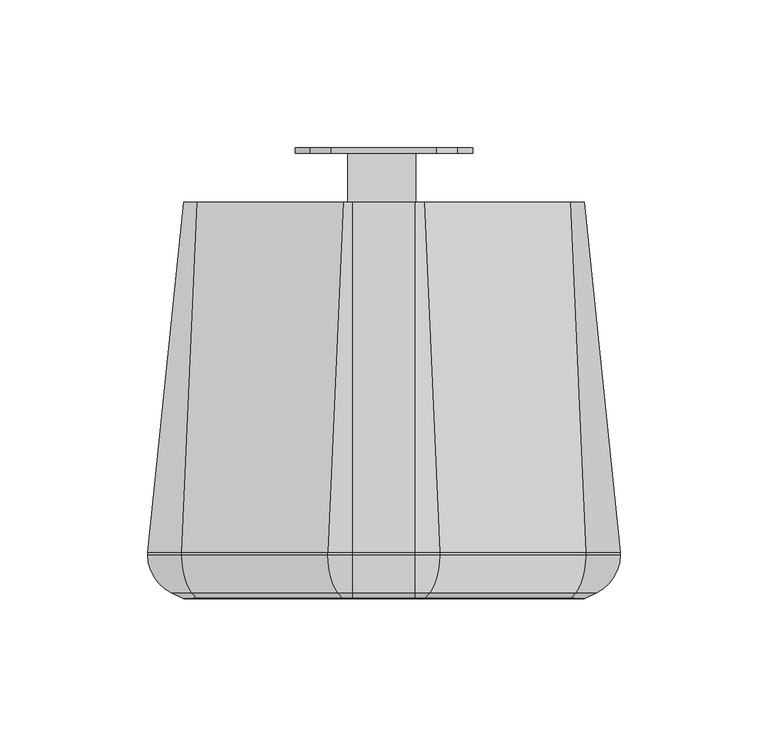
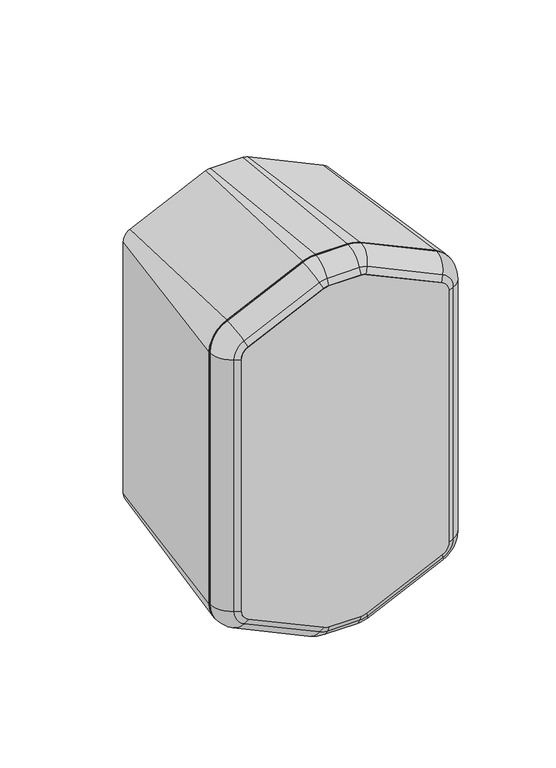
"""IFC4 building model written with IfcOpenShell, lengths in millimetres: proxy geometry, 230208 BIM Data_MS 530T VA-FR : MS 530T VA."""

from ifc_helpers import new_model, si_unit, point, frame, frame_2d, origin, place, context, project, spatial, polyline, circle_curve, ellipse_curve, trimmed, segment, composite_curve, outline, extrude, source, transform, mapped, element, save
from ifc_brep_helpers import plane_surface, cylinder_surface, revolved_surface, advanced_brep


def communication_devices_19396da9(model_context):
    return source(origin(), model_context, "Body", "SolidModel", [
        extrude(outline(polyline([(10.7406672, 75.3814534), (10.7406672, 58.8099409), (-12.2444111, 58.8099409), (-12.2444111, 75.3814534), (10.7406672, 75.3814534)])), frame((0.0, 0.0, 107.8898426), z_axis=(0.0, 0.0, 1.0), x_axis=(1.0, 0.0, 0.0)), (0.0, 0.0, 1.0), 29.9977826),
        extrude(outline(composite_curve([segment(polyline([(83.8316642, -24.945488), (76.7605964, -17.8744202)]), True, "CONTINUOUS"), segment(trimmed(circle_curve(frame_2d((41.2463729, 0.0)), 39.7587094), [point((76.7605964, -17.8744202))], [point((76.7605964, 17.8744202))], True, "CARTESIAN"), True, "CONTINUOUS"), segment(polyline([(76.7605964, 17.8744202), (83.8316642, 24.945488)]), True, "CONTINUOUS"), segment(trimmed(circle_curve(frame_2d((123.8316642, -111.9962019)), 142.6640335), [point((83.8316642, 24.945488))], [point((163.8316642, 24.945488))], False, "CARTESIAN"), True, "CONTINUOUS"), segment(polyline([(163.8316642, 24.945488), (170.902732, 17.8744202)]), True, "CONTINUOUS"), segment(trimmed(circle_curve(frame_2d((206.4169555, 0.0)), 39.7587094), [point((170.902732, 17.8744202))], [point((170.902732, -17.8744202))], True, "CARTESIAN"), True, "CONTINUOUS"), segment(polyline([(170.902732, -17.8744202), (163.8316642, -24.945488)]), True, "CONTINUOUS"), segment(trimmed(circle_curve(frame_2d((123.8316642, 111.9962019)), 142.6640335), [point((163.8316642, -24.945488))], [point((83.8316642, -24.945488))], False, "CARTESIAN"), True, "CONTINUOUS")], self_intersect=False), holes=[composite_curve([segment(trimmed(circle_curve(frame_2d((156.5947389, -14.9587348)), 2.6790866), [point((156.5947389, -17.6378214))], [point((156.5947389, -12.2796483))], True, "CARTESIAN"), True, "CONTINUOUS"), segment(trimmed(circle_curve(frame_2d((156.5947389, -14.9587348)), 2.6790866), [point((156.5947389, -12.2796483))], [point((156.5947389, -17.6378214))], True, "CARTESIAN"), True, "CONTINUOUS")], self_intersect=False), composite_curve([segment(trimmed(circle_curve(frame_2d((156.5947389, 14.9587348)), 2.6790866), [point((156.5947389, 12.2796483))], [point((156.5947389, 17.6378214))], True, "CARTESIAN"), True, "CONTINUOUS"), segment(trimmed(circle_curve(frame_2d((156.5947389, 14.9587348)), 2.6790866), [point((156.5947389, 17.6378214))], [point((156.5947389, 12.2796483))], True, "CARTESIAN"), True, "CONTINUOUS")], self_intersect=False), composite_curve([segment(trimmed(circle_curve(frame_2d((91.0685895, -14.9587348)), 2.6790866), [point((91.0685895, -17.6378214))], [point((91.0685895, -12.2796483))], True, "CARTESIAN"), True, "CONTINUOUS"), segment(trimmed(circle_curve(frame_2d((91.0685895, -14.9587348)), 2.6790866), [point((91.0685895, -12.2796483))], [point((91.0685895, -17.6378214))], True, "CARTESIAN"), True, "CONTINUOUS")], self_intersect=False), composite_curve([segment(trimmed(circle_curve(frame_2d((91.0685895, 14.9587348)), 2.6790866), [point((91.0685895, 12.2796483))], [point((91.0685895, 17.6378214))], True, "CARTESIAN"), True, "CONTINUOUS"), segment(trimmed(circle_curve(frame_2d((91.0685895, 14.9587348)), 2.6790866), [point((91.0685895, 17.6378214))], [point((91.0685895, 12.2796483))], True, "CARTESIAN"), True, "CONTINUOUS")], self_intersect=False)]), frame((0.0, 75.3814534, 0.0), z_axis=(0.0, 1.0, 0.0), x_axis=(0.0, 0.0, 1.0)), (0.0, 0.0, 1.0), 1.9185466),
        advanced_brep(
        [(-13.8437602, 58.8099409, 247.0289506), (-10.5661067, 58.8099409, 247.7555889), (10.5661067, 58.8099409, 247.7555889), (13.8437602, 58.8099409, 247.0289506), (63.2776535, 58.8099409, 223.9775476), (67.7555889, 58.8099409, 216.948597), (67.7555889, 58.8099409, 43.051403), (63.2776535, 58.8099409, 36.0224524), (13.8437602, 58.8099409, 12.9710494), (10.5661067, 58.8099409, 12.2444111), (-10.5661067, 58.8099409, 12.2444111), (-13.8437602, 58.8099409, 12.9710494), (-63.2776535, 58.8099409, 36.0224524), (-67.7555889, 58.8099409, 43.051403), (-67.7555889, 58.8099409, 216.948597), (-63.2776535, 58.8099409, 223.9775476), (-19.018472, -59.7, 258.1261557), (-68.4523652, -59.7, 235.0747527), (-80.0, -59.7, 216.948597), (-80.0, -59.7, 43.051403), (-68.4523652, -59.7, 24.9252473), (-19.018472, -59.7, 1.8738443), (-10.5661067, -59.7, 0.0), (10.5661067, -59.7, 0.0), (19.018472, -59.7, 1.8738443), (68.4523652, -59.7, 24.9252473), (80.0, -59.7, 43.051403), (80.0, -59.7, 216.948597), (68.4523652, -59.7, 235.0747527), (19.018472, -59.7, 258.1261557), (10.5661067, -59.7, 260.0), (-10.5661067, -59.7, 260.0)],
        [
            (0, 1, circle_curve(frame((-10.5661067, 58.8099409, 240.0), z_axis=(0.0, 1.0, 0.0), x_axis=(-0.4226182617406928, 0.0, 0.906307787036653)), 7.7555889)),
            (1, 2),
            (2, 3, circle_curve(frame((10.5661067, 58.8099409, 240.0), z_axis=(0.0, 1.0, 0.0), x_axis=(0.0, 0.0, 1.0)), 7.7555889)),
            (3, 4),
            (4, 5, circle_curve(frame((60.0, 58.8099409, 216.948597), z_axis=(0.0, 1.0, 0.0), x_axis=(0.42261826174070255, 0.0, 0.9063077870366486)), 7.7555889)),
            (5, 6),
            (6, 7, circle_curve(frame((60.0, 58.8099409, 43.051403), z_axis=(0.0, 1.0, 0.0), x_axis=(1.0, 0.0, 0.0)), 7.7555889)),
            (7, 8),
            (8, 9, circle_curve(frame((10.5661067, 58.8099409, 20.0), z_axis=(0.0, 1.0, 0.0), x_axis=(0.42261826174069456, 0.0, -0.9063077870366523)), 7.7555889)),
            (9, 10),
            (10, 11, circle_curve(frame((-10.5661067, 58.8099409, 20.0), z_axis=(0.0, 1.0, 0.0), x_axis=(0.0, 0.0, -1.0)), 7.7555889)),
            (11, 12),
            (12, 13, circle_curve(frame((-60.0, 58.8099409, 43.051403), z_axis=(0.0, 1.0, 0.0), x_axis=(-0.4226182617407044, 0.0, -0.9063077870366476)), 7.7555889)),
            (13, 14),
            (14, 15, circle_curve(frame((-60.0, 58.8099409, 216.948597), z_axis=(0.0, 1.0, 0.0), x_axis=(-1.0, 0.0, 0.0)), 7.7555889)),
            (15, 0),
            (16, 17),
            (17, 18, circle_curve(frame((-60.0, -59.7, 216.948597), z_axis=(0.0, -1.0, 0.0), x_axis=(-1.0, 0.0, 0.0)), 20.0)),
            (18, 19),
            (19, 20, circle_curve(frame((-60.0, -59.7, 43.051403), z_axis=(0.0, -1.0, 0.0), x_axis=(-0.4226182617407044, 0.0, -0.9063077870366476)), 20.0)),
            (20, 21),
            (21, 22, circle_curve(frame((-10.5661067, -59.7, 20.0), z_axis=(0.0, -1.0, 0.0), x_axis=(0.0, 0.0, -1.0)), 20.0)),
            (22, 23),
            (23, 24, circle_curve(frame((10.5661067, -59.7, 20.0), z_axis=(0.0, -1.0, 0.0), x_axis=(0.42261826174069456, 0.0, -0.9063077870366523)), 20.0)),
            (24, 25),
            (25, 26, circle_curve(frame((60.0, -59.7, 43.051403), z_axis=(0.0, -1.0, 0.0), x_axis=(1.0, 0.0, 0.0)), 20.0)),
            (26, 27),
            (27, 28, circle_curve(frame((60.0, -59.7, 216.948597), z_axis=(0.0, -1.0, 0.0), x_axis=(0.42261826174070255, 0.0, 0.9063077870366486)), 20.0)),
            (28, 29),
            (29, 30, circle_curve(frame((10.5661067, -59.7, 240.0), z_axis=(0.0, -1.0, 0.0), x_axis=(0.0, 0.0, 1.0)), 20.0)),
            (30, 31),
            (31, 16, circle_curve(frame((-10.5661067, -59.7, 240.0), z_axis=(0.0, -1.0, 0.0), x_axis=(-0.4226182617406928, 0.0, 0.906307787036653)), 20.0)),
            (16, 0),
            (15, 17),
            (14, 18),
            (13, 19),
            (12, 20),
            (11, 21),
            (10, 22),
            (9, 23),
            (8, 24),
            (7, 25),
            (6, 26),
            (5, 27),
            (4, 28),
            (3, 29),
            (2, 30),
            (1, 31),
        ],
        [
            plane_surface(frame((0.0, 58.8099409, 130.0), z_axis=(0.0, 1.0, 0.0), x_axis=(-0.9063077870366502, 0.0, -0.42261826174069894))),
            plane_surface(frame((0.0, -59.7, 130.0), z_axis=(0.0, -1.0, 0.0), x_axis=(-0.9063077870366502, 0.0, -0.42261826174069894))),
            plane_surface(frame((-43.7354186, -59.7, 246.6004542), z_axis=(-0.42038044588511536, 0.10277260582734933, 0.9015087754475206), x_axis=(0.9063077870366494, 0.0, 0.4226182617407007))),
            revolved_surface(polyline([(-67.75558889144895, 58.8099409, 216.948597), (-80.0, -59.69999999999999, 216.948597)]), (-60.0, 133.8739332, 216.948597), (0.0, -1.0, 0.0)),
            plane_surface(frame((-80.0, -59.7, 130.0), z_axis=(-0.9947048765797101, 0.10277260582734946, 0.0), x_axis=(0.0, 0.0, 1.0))),
            revolved_surface(polyline([(-63.27765348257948, 58.8099409, 36.0224524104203), (-68.4523652, -59.69999999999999, 24.9252473)]), (-60.0, 133.8739332, 43.051403), (0.0, -1.0, 0.0)),
            plane_surface(frame((-43.7354186, -59.7, 13.3995458), z_axis=(-0.4203804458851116, 0.10277260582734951, -0.9015087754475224), x_axis=(-0.9063077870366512, 0.0, 0.42261826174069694))),
            revolved_surface(polyline([(-10.5661067, 58.8099409, 12.244411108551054), (-10.5661067, -59.69999999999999, 0.0)]), (-10.5661067, 133.8739332, 20.0), (0.0, -1.0, 0.0)),
            plane_surface(frame((0.0, -59.7, 0.0), z_axis=(0.0, 0.10277260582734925, -0.9947048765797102), x_axis=(-1.0, 0.0, 0.0))),
            revolved_surface(polyline([(13.843760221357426, 58.8099409, 12.971049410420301), (19.018472, -59.69999999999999, 1.8738443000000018)]), (10.5661067, 133.8739332, 20.0), (0.0, -1.0, 0.0)),
            plane_surface(frame((43.7354186, -59.7, 13.3995458), z_axis=(0.420380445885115, 0.10277260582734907, -0.9015087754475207), x_axis=(-0.9063077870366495, 0.0, -0.42261826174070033))),
            revolved_surface(polyline([(67.75558889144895, 58.8099409, 43.051403), (80.0, -59.69999999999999, 43.051403)]), (60.0, 133.8739332, 43.051403), (0.0, -1.0, 0.0)),
            plane_surface(frame((80.0, -59.7, 130.0), z_axis=(0.9947048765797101, 0.10277260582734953, 0.0), x_axis=(0.0, 0.0, -1.0))),
            revolved_surface(polyline([(63.27765348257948, 58.8099409, 223.9775475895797), (68.4523652, -59.69999999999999, 235.0747527)]), (60.0, 133.8739332, 216.948597), (0.0, -1.0, 0.0)),
            plane_surface(frame((43.7354186, -59.7, 246.6004542), z_axis=(0.4203804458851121, 0.10277260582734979, 0.9015087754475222), x_axis=(0.9063077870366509, 0.0, -0.42261826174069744))),
            revolved_surface(polyline([(10.5661067, 58.8099409, 247.75558889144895), (10.5661067, -59.69999999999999, 260.0)]), (10.5661067, 133.8739332, 240.0), (0.0, -1.0, 0.0)),
            plane_surface(frame((0.0, -59.7, 260.0), z_axis=(0.0, 0.1027726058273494, 0.9947048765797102), x_axis=(1.0, 0.0, 0.0))),
            revolved_surface(polyline([(-13.843760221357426, 58.8099409, 247.02895058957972), (-19.018472, -59.69999999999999, 258.1261557)]), (-10.5661067, 133.8739332, 240.0), (0.0, -1.0, 0.0)),
        ],
        [
            (0, [[1, 2, 3, 4, 5, 6, 7, 8, 9, 10, 11, 12, 13, 14, 15, 16]]),
            (1, [[17, 18, 19, 20, 21, 22, 23, 24, 25, 26, 27, 28, 29, 30, 31, 32]]),
            (2, [[-17, 33, -16, 34]]),
            (3, [[-18, -34, -15, 35]]),
            (4, [[-19, -35, -14, 36]]),
            (5, [[-20, -36, -13, 37]]),
            (6, [[-21, -37, -12, 38]]),
            (7, [[-22, -38, -11, 39]]),
            (8, [[-23, -39, -10, 40]]),
            (9, [[-24, -40, -9, 41]]),
            (10, [[-25, -41, -8, 42]]),
            (11, [[-26, -42, -7, 43]]),
            (12, [[-27, -43, -6, 44]]),
            (13, [[-28, -44, -5, 45]]),
            (14, [[-29, -45, -4, 46]]),
            (15, [[-30, -46, -3, 47]]),
            (16, [[-31, -47, -2, 48]]),
            (17, [[-32, -48, -1, -33]]),
        ],
    ),
        extrude(outline(composite_curve([segment(polyline([(216.948597, -67.7555889), (43.051403, -67.7555889)]), True, "CONTINUOUS"), segment(trimmed(circle_curve(frame_2d((43.051403, -60.0)), 7.7555889), [point((43.051403, -67.7555889))], [point((36.0224524, -63.2776535))], False, "CARTESIAN"), True, "CONTINUOUS"), segment(polyline([(36.0224524, -63.2776535), (12.9710494, -13.8437602)]), True, "CONTINUOUS"), segment(trimmed(circle_curve(frame_2d((20.0, -10.5661067)), 7.7555889), [point((12.9710494, -13.8437602))], [point((12.2444111, -10.5661067))], False, "CARTESIAN"), True, "CONTINUOUS"), segment(polyline([(12.2444111, -10.5661067), (12.2444111, 10.5661067)]), True, "CONTINUOUS"), segment(trimmed(circle_curve(frame_2d((20.0, 10.5661067)), 7.7555889), [point((12.2444111, 10.5661067))], [point((12.9710494, 13.8437602))], False, "CARTESIAN"), True, "CONTINUOUS"), segment(polyline([(12.9710494, 13.8437602), (36.0224524, 63.2776535)]), True, "CONTINUOUS"), segment(trimmed(circle_curve(frame_2d((43.051403, 60.0)), 7.7555889), [point((36.0224524, 63.2776535))], [point((43.051403, 67.7555889))], False, "CARTESIAN"), True, "CONTINUOUS"), segment(polyline([(43.051403, 67.7555889), (216.948597, 67.7555889)]), True, "CONTINUOUS"), segment(trimmed(circle_curve(frame_2d((216.948597, 60.0)), 7.7555889), [point((216.948597, 67.7555889))], [point((223.9775476, 63.2776535))], False, "CARTESIAN"), True, "CONTINUOUS"), segment(polyline([(223.9775476, 63.2776535), (247.0289506, 13.8437602)]), True, "CONTINUOUS"), segment(trimmed(circle_curve(frame_2d((240.0, 10.5661067)), 7.7555889), [point((247.0289506, 13.8437602))], [point((247.7555889, 10.5661067))], False, "CARTESIAN"), True, "CONTINUOUS"), segment(polyline([(247.7555889, 10.5661067), (247.7555889, -10.5661067)]), True, "CONTINUOUS"), segment(trimmed(circle_curve(frame_2d((240.0, -10.5661067)), 7.7555889), [point((247.7555889, -10.5661067))], [point((247.0289506, -13.8437602))], False, "CARTESIAN"), True, "CONTINUOUS"), segment(polyline([(247.0289506, -13.8437602), (223.9775476, -63.2776535)]), True, "CONTINUOUS"), segment(trimmed(circle_curve(frame_2d((216.948597, -60.0)), 7.7555889), [point((223.9775476, -63.2776535))], [point((216.948597, -67.7555889))], False, "CARTESIAN"), True, "CONTINUOUS")], self_intersect=False)), frame((0.0, -75.4174067, 0.0), z_axis=(0.0, 1.0, 0.0), x_axis=(0.0, 0.0, 1.0)), (0.0, 0.0, 1.0), 16.1659905),
        advanced_brep(
        [(68.4523652, -60.4918521, 235.0747527), (80.0, -60.4918521, 216.948597), (80.0, -59.7, 216.948597), (68.4523652, -59.7, 235.0747527), (65.0513857, -73.3703892, 227.7813287), (71.9525969, -73.3703892, 216.948597), (63.2776535, -75.4174067, 223.9775476), (67.7555889, -75.4174067, 216.948597), (63.2776535, -59.7, 223.9775476), (67.7555889, -59.7, 216.948597), (19.018472, -59.7, 258.1261557), (19.018472, -60.4918521, 258.1261557), (15.6174925, -73.3703892, 250.8327316), (13.8437602, -75.4174067, 247.0289506), (13.8437602, -59.7, 247.0289506), (10.5661067, -60.4918521, 260.0), (10.5661067, -59.7, 260.0), (10.5661067, -73.3703892, 251.9525969), (10.5661067, -75.4174067, 247.7555889), (10.5661067, -59.7, 247.7555889), (-10.5661067, -59.7, 260.0), (-10.5661067, -60.4918521, 260.0), (-10.5661067, -73.3703892, 251.9525969), (-10.5661067, -75.4174067, 247.7555889), (-10.5661067, -59.7, 247.7555889), (-19.018472, -60.4918521, 258.1261557), (-19.018472, -59.7, 258.1261557), (-15.6174925, -73.3703892, 250.8327316), (-13.8437602, -75.4174067, 247.0289506), (-13.8437602, -59.7, 247.0289506), (-68.4523652, -59.7, 235.0747527), (-68.4523652, -60.4918521, 235.0747527), (-65.0513857, -73.3703892, 227.7813287), (-63.2776535, -75.4174067, 223.9775476), (-63.2776535, -59.7, 223.9775476), (-80.0, -60.4918521, 216.948597), (-80.0, -59.7, 216.948597), (-71.9525969, -73.3703892, 216.948597), (-67.7555889, -75.4174067, 216.948597), (-67.7555889, -59.7, 216.948597), (-80.0, -59.7, 43.051403), (-80.0, -60.4918521, 43.051403), (-71.9525969, -73.3703892, 43.051403), (-67.7555889, -75.4174067, 43.051403), (-67.7555889, -59.7, 43.051403), (-68.4523652, -60.4918521, 24.9252473), (-68.4523652, -59.7, 24.9252473), (-65.0513857, -73.3703892, 32.2186713), (-63.2776535, -75.4174067, 36.0224524), (-63.2776535, -59.7, 36.0224524), (-19.018472, -59.7, 1.8738443), (-19.018472, -60.4918521, 1.8738443), (-15.6174925, -73.3703892, 9.1672684), (-13.8437602, -75.4174067, 12.9710494), (-13.8437602, -59.7, 12.9710494), (-10.5661067, -60.4918521, 0.0), (-10.5661067, -59.7, 0.0), (-10.5661067, -73.3703892, 8.0474031), (-10.5661067, -75.4174067, 12.2444111), (-10.5661067, -59.7, 12.2444111), (10.5661067, -59.7, 0.0), (10.5661067, -60.4918521, 0.0), (10.5661067, -73.3703892, 8.0474031), (10.5661067, -75.4174067, 12.2444111), (10.5661067, -59.7, 12.2444111), (19.018472, -60.4918521, 1.8738443), (19.018472, -59.7, 1.8738443), (15.6174925, -73.3703892, 9.1672684), (13.8437602, -75.4174067, 12.9710494), (13.8437602, -59.7, 12.9710494), (68.4523652, -59.7, 24.9252473), (68.4523652, -60.4918521, 24.9252473), (65.0513857, -73.3703892, 32.2186713), (63.2776535, -75.4174067, 36.0224524), (63.2776535, -59.7, 36.0224524), (80.0, -60.4918521, 43.051403), (80.0, -59.7, 43.051403), (71.9525969, -73.3703892, 43.051403), (67.7555889, -75.4174067, 43.051403), (67.7555889, -59.7, 43.051403)],
        [
            (0, 1, circle_curve(frame((60.0, -60.4918521, 216.948597), z_axis=(0.0, 1.0, 0.0), x_axis=(1.0, 0.0, 0.0)), 20.0)),
            (1, 2),
            (2, 3, circle_curve(frame((60.0, -59.7, 216.948597), z_axis=(0.0, -1.0, 0.0), x_axis=(1.0, 0.0, 0.0)), 20.0)),
            (3, 0),
            (4, 5, circle_curve(frame((60.0, -73.3703892, 216.948597), z_axis=(0.0, 1.0, 0.0), x_axis=(1.0, 0.0, 0.0)), 11.9525969)),
            (5, 1, circle_curve(frame((65.6713147, -60.4918521, 216.948597), z_axis=(0.0, 0.0, 1.0), x_axis=(-1.0, 0.0, 0.0)), 14.3286853)),
            (0, 4, circle_curve(frame((62.3968012, -60.4918521, 222.0885537), z_axis=(0.90630778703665, 0.0, -0.42261826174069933), x_axis=(-0.42261826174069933, 0.0, -0.90630778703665)), 14.3286853)),
            (6, 7, circle_curve(frame((60.0, -75.4174067, 216.948597), z_axis=(0.0, 1.0, 0.0), x_axis=(1.0, 0.0, 0.0)), 7.7555889)),
            (7, 5),
            (4, 6),
            (8, 9, circle_curve(frame((60.0, -59.7, 216.948597), z_axis=(0.0, 1.0, 0.0), x_axis=(1.0, 0.0, 0.0)), 7.7555889)),
            (9, 7),
            (6, 8),
            (3, 10),
            (10, 11),
            (11, 0),
            (11, 12, circle_curve(frame((12.9629079, -60.4918521, 245.1399567), z_axis=(0.9063077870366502, 0.0, -0.42261826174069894), x_axis=(-0.42261826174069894, 0.0, -0.9063077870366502)), 14.3286853)),
            (12, 4),
            (12, 13),
            (13, 6),
            (13, 14),
            (14, 8),
            (15, 11, circle_curve(frame((10.5661067, -60.4918521, 240.0), z_axis=(0.0, 1.0, 0.0), x_axis=(0.42261826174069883, 0.0, 0.9063077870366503)), 20.0)),
            (10, 16, circle_curve(frame((10.5661067, -59.7, 240.0), z_axis=(0.0, -1.0, 0.0), x_axis=(0.42261826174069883, 0.0, 0.9063077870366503)), 20.0)),
            (16, 15),
            (17, 12, circle_curve(frame((10.5661067, -73.3703892, 240.0), z_axis=(0.0, 1.0, 0.0), x_axis=(0.42261826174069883, 0.0, 0.9063077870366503)), 11.9525969)),
            (15, 17, circle_curve(frame((10.5661067, -60.4918521, 245.6713147), z_axis=(1.0, 0.0, 0.0), x_axis=(0.0, 0.0, -1.0)), 14.3286853)),
            (18, 13, circle_curve(frame((10.5661067, -75.4174067, 240.0), z_axis=(0.0, 1.0, 0.0), x_axis=(0.42261826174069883, 0.0, 0.9063077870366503)), 7.7555889)),
            (17, 18),
            (19, 14, circle_curve(frame((10.5661067, -59.7, 240.0), z_axis=(0.0, 1.0, 0.0), x_axis=(0.42261826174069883, 0.0, 0.9063077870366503)), 7.7555889)),
            (18, 19),
            (16, 20),
            (20, 21),
            (21, 15),
            (21, 22, circle_curve(frame((-10.5661067, -60.4918521, 245.6713147), z_axis=(1.0, 0.0, 0.0), x_axis=(0.0, 0.0, -1.0)), 14.3286853)),
            (22, 17),
            (22, 23),
            (23, 18),
            (23, 24),
            (24, 19),
            (25, 21, circle_curve(frame((-10.5661067, -60.4918521, 240.0), z_axis=(0.0, 1.0, 0.0), x_axis=(0.0, 0.0, 1.0)), 20.0)),
            (20, 26, circle_curve(frame((-10.5661067, -59.7, 240.0), z_axis=(0.0, -1.0, 0.0), x_axis=(0.0, 0.0, 1.0)), 20.0)),
            (26, 25),
            (27, 22, circle_curve(frame((-10.5661067, -73.3703892, 240.0), z_axis=(0.0, 1.0, 0.0), x_axis=(0.0, 0.0, 1.0)), 11.9525969)),
            (25, 27, circle_curve(frame((-12.9629079, -60.4918521, 245.1399567), z_axis=(0.9063077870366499, 0.0, 0.4226182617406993), x_axis=(0.4226182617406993, 0.0, -0.9063077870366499)), 14.3286853)),
            (28, 23, circle_curve(frame((-10.5661067, -75.4174067, 240.0), z_axis=(0.0, 1.0, 0.0), x_axis=(0.0, 0.0, 1.0)), 7.7555889)),
            (27, 28),
            (29, 24, circle_curve(frame((-10.5661067, -59.7, 240.0), z_axis=(0.0, 1.0, 0.0), x_axis=(0.0, 0.0, 1.0)), 7.7555889)),
            (28, 29),
            (26, 30),
            (30, 31),
            (31, 25),
            (31, 32, circle_curve(frame((-62.3968012, -60.4918521, 222.0885537), z_axis=(0.9063077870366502, 0.0, 0.42261826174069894), x_axis=(0.42261826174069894, 0.0, -0.9063077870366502)), 14.3286853)),
            (32, 27),
            (32, 33),
            (33, 28),
            (33, 34),
            (34, 29),
            (35, 31, circle_curve(frame((-60.0, -60.4918521, 216.948597), z_axis=(0.0, 1.0, 0.0), x_axis=(-0.4226182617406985, 0.0, 0.9063077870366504)), 20.0)),
            (30, 36, circle_curve(frame((-60.0, -59.7, 216.948597), z_axis=(0.0, -1.0, 0.0), x_axis=(-0.4226182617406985, 0.0, 0.9063077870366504)), 20.0)),
            (36, 35),
            (37, 32, circle_curve(frame((-60.0, -73.3703892, 216.948597), z_axis=(0.0, 1.0, 0.0), x_axis=(-0.4226182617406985, 0.0, 0.9063077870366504)), 11.9525969)),
            (35, 37, circle_curve(frame((-65.6713147, -60.4918521, 216.948597), z_axis=(0.0, 0.0, 1.0), x_axis=(1.0, 0.0, 0.0)), 14.3286853)),
            (38, 33, circle_curve(frame((-60.0, -75.4174067, 216.948597), z_axis=(0.0, 1.0, 0.0), x_axis=(-0.4226182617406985, 0.0, 0.9063077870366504)), 7.7555889)),
            (37, 38),
            (39, 34, circle_curve(frame((-60.0, -59.7, 216.948597), z_axis=(0.0, 1.0, 0.0), x_axis=(-0.4226182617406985, 0.0, 0.9063077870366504)), 7.7555889)),
            (38, 39),
            (36, 40),
            (40, 41),
            (41, 35),
            (41, 42, circle_curve(frame((-65.6713147, -60.4918521, 43.051403), z_axis=(0.0, 0.0, 1.0), x_axis=(1.0, 0.0, 0.0)), 14.3286853)),
            (42, 37),
            (42, 43),
            (43, 38),
            (43, 44),
            (44, 39),
            (45, 41, circle_curve(frame((-60.0, -60.4918521, 43.051403), z_axis=(0.0, 1.0, 0.0), x_axis=(-1.0, 0.0, 0.0)), 20.0)),
            (40, 46, circle_curve(frame((-60.0, -59.7, 43.051403), z_axis=(0.0, -1.0, 0.0), x_axis=(-1.0, 0.0, 0.0)), 20.0)),
            (46, 45),
            (47, 42, circle_curve(frame((-60.0, -73.3703892, 43.051403), z_axis=(0.0, 1.0, 0.0), x_axis=(-1.0, 0.0, 0.0)), 11.9525969)),
            (45, 47, circle_curve(frame((-62.3968012, -60.4918521, 37.9114463), z_axis=(-0.9063077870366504, 0.0, 0.42261826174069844), x_axis=(0.42261826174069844, 0.0, 0.9063077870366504)), 14.3286853)),
            (48, 43, circle_curve(frame((-60.0, -75.4174067, 43.051403), z_axis=(0.0, 1.0, 0.0), x_axis=(-1.0, 0.0, 0.0)), 7.7555889)),
            (47, 48),
            (49, 44, circle_curve(frame((-60.0, -59.7, 43.051403), z_axis=(0.0, 1.0, 0.0), x_axis=(-1.0, 0.0, 0.0)), 7.7555889)),
            (48, 49),
            (46, 50),
            (50, 51),
            (51, 45),
            (51, 52, circle_curve(frame((-12.9629079, -60.4918521, 14.8600433), z_axis=(-0.9063077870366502, 0.0, 0.42261826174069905), x_axis=(0.42261826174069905, 0.0, 0.9063077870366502)), 14.3286853)),
            (52, 47),
            (52, 53),
            (53, 48),
            (53, 54),
            (54, 49),
            (55, 51, circle_curve(frame((-10.5661067, -60.4918521, 20.0), z_axis=(0.0, 1.0, 0.0), x_axis=(-0.42261826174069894, 0.0, -0.9063077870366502)), 20.0)),
            (50, 56, circle_curve(frame((-10.5661067, -59.7, 20.0), z_axis=(0.0, -1.0, 0.0), x_axis=(-0.42261826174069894, 0.0, -0.9063077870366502)), 20.0)),
            (56, 55),
            (57, 52, circle_curve(frame((-10.5661067, -73.3703892, 20.0), z_axis=(0.0, 1.0, 0.0), x_axis=(-0.42261826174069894, 0.0, -0.9063077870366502)), 11.9525969)),
            (55, 57, circle_curve(frame((-10.5661067, -60.4918521, 14.3286853), z_axis=(-1.0, 0.0, 0.0), x_axis=(0.0, 0.0, 1.0)), 14.3286853)),
            (58, 53, circle_curve(frame((-10.5661067, -75.4174067, 20.0), z_axis=(0.0, 1.0, 0.0), x_axis=(-0.42261826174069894, 0.0, -0.9063077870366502)), 7.7555889)),
            (57, 58),
            (59, 54, circle_curve(frame((-10.5661067, -59.7, 20.0), z_axis=(0.0, 1.0, 0.0), x_axis=(-0.42261826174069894, 0.0, -0.9063077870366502)), 7.7555889)),
            (58, 59),
            (56, 60),
            (60, 61),
            (61, 55),
            (61, 62, circle_curve(frame((10.5661067, -60.4918521, 14.3286853), z_axis=(-1.0, 0.0, 0.0), x_axis=(0.0, 0.0, 1.0)), 14.3286853)),
            (62, 57),
            (62, 63),
            (63, 58),
            (63, 64),
            (64, 59),
            (65, 61, circle_curve(frame((10.5661067, -60.4918521, 20.0), z_axis=(0.0, 1.0, 0.0), x_axis=(0.0, 0.0, -1.0)), 20.0)),
            (60, 66, circle_curve(frame((10.5661067, -59.7, 20.0), z_axis=(0.0, -1.0, 0.0), x_axis=(0.0, 0.0, -1.0)), 20.0)),
            (66, 65),
            (67, 62, circle_curve(frame((10.5661067, -73.3703892, 20.0), z_axis=(0.0, 1.0, 0.0), x_axis=(0.0, 0.0, -1.0)), 11.9525969)),
            (65, 67, circle_curve(frame((12.9629079, -60.4918521, 14.8600433), z_axis=(-0.9063077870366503, 0.0, -0.4226182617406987), x_axis=(-0.4226182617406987, 0.0, 0.9063077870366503)), 14.3286853)),
            (68, 63, circle_curve(frame((10.5661067, -75.4174067, 20.0), z_axis=(0.0, 1.0, 0.0), x_axis=(0.0, 0.0, -1.0)), 7.7555889)),
            (67, 68),
            (69, 64, circle_curve(frame((10.5661067, -59.7, 20.0), z_axis=(0.0, 1.0, 0.0), x_axis=(0.0, 0.0, -1.0)), 7.7555889)),
            (68, 69),
            (66, 70),
            (70, 71),
            (71, 65),
            (71, 72, circle_curve(frame((62.3968012, -60.4918521, 37.9114463), z_axis=(-0.9063077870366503, 0.0, -0.4226182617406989), x_axis=(-0.4226182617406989, 0.0, 0.9063077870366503)), 14.3286853)),
            (72, 67),
            (72, 73),
            (73, 68),
            (73, 74),
            (74, 69),
            (75, 71, circle_curve(frame((60.0, -60.4918521, 43.051403), z_axis=(0.0, 1.0, 0.0), x_axis=(0.4226182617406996, 0.0, -0.9063077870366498)), 20.0)),
            (70, 76, circle_curve(frame((60.0, -59.7, 43.051403), z_axis=(0.0, -1.0, 0.0), x_axis=(0.4226182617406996, 0.0, -0.9063077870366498)), 20.0)),
            (76, 75),
            (77, 72, circle_curve(frame((60.0, -73.3703892, 43.051403), z_axis=(0.0, 1.0, 0.0), x_axis=(0.4226182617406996, 0.0, -0.9063077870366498)), 11.9525969)),
            (75, 77, circle_curve(frame((65.6713147, -60.4918521, 43.051403), z_axis=(0.0, 0.0, -1.0), x_axis=(-1.0, 0.0, 0.0)), 14.3286853)),
            (78, 73, circle_curve(frame((60.0, -75.4174067, 43.051403), z_axis=(0.0, 1.0, 0.0), x_axis=(0.4226182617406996, 0.0, -0.9063077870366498)), 7.7555889)),
            (77, 78),
            (79, 74, circle_curve(frame((60.0, -59.7, 43.051403), z_axis=(0.0, 1.0, 0.0), x_axis=(0.4226182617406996, 0.0, -0.9063077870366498)), 7.7555889)),
            (78, 79),
            (76, 2),
            (1, 75),
            (5, 77),
            (7, 78),
            (9, 79),
        ],
        [
            cylinder_surface(frame((60.0, 0.0, 216.948597), z_axis=(0.0, -1.0, 0.0), x_axis=(1.0, 0.0, 0.0)), 20.0),
            revolved_surface(trimmed(ellipse_curve(frame((65.6713147, -60.4918521, 216.948597), z_axis=(0.0, 0.0, -1.0), x_axis=(-1.0, 0.0, 0.0)), 14.3286853, 14.3286853), [point((80.0, -60.4918521, 216.948597))], [point((71.9525969, -73.3703892, 216.948597))], True, "CARTESIAN"), (60.0, 0.0, 216.948597), (0.0, -1.0, 0.0)),
            revolved_surface(polyline([(71.9525969, -73.3703892, 216.948597), (67.7555889, -75.4174067, 216.948597)]), (60.0, 0.0, 216.948597), (0.0, -1.0, 0.0)),
            revolved_surface(polyline([(67.7555889, -75.4174067, 216.948597), (67.7555889, -59.7, 216.948597)]), (60.0, 0.0, 216.948597), (0.0, -1.0, 0.0)),
            plane_surface(frame((68.4523652, -59.7, 235.0747527), z_axis=(0.4226182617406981, 0.0, 0.9063077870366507), x_axis=(-0.9063077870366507, 0.0, 0.4226182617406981))),
            cylinder_surface(frame((62.3968012, -60.4918521, 222.0885537), z_axis=(0.9063077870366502, 0.0, -0.42261826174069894), x_axis=(-0.42261826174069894, 0.0, -0.9063077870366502)), 14.3286853),
            plane_surface(frame((65.0513857, -73.3703892, 227.7813287), z_axis=(0.18526365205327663, -0.898794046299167, 0.39729918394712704), x_axis=(-0.9063077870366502, 0.0, 0.42261826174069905))),
            plane_surface(frame((63.2776535, -75.4174067, 223.9775476), z_axis=(-0.4226182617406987, 0.0, -0.9063077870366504), x_axis=(-0.9063077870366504, 0.0, 0.4226182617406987))),
            cylinder_surface(frame((10.5661067, 0.0, 240.0), z_axis=(0.0, -1.0, 0.0), x_axis=(0.42261826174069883, 0.0, 0.9063077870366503)), 20.0),
            revolved_surface(trimmed(ellipse_curve(frame((12.9629079, -60.4918521, 245.1399567), z_axis=(0.9063077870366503, 0.0, -0.42261826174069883), x_axis=(-0.42261826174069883, 0.0, -0.9063077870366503)), 14.3286853, 14.3286853), [point((19.018472, -60.4918521, 258.1261557))], [point((15.6174925, -73.3703892, 250.8327316))], True, "CARTESIAN"), (10.5661067, 0.0, 240.0), (0.0, -1.0, 0.0)),
            revolved_surface(polyline([(15.6174925, -73.3703892, 250.8327316), (13.8437602, -75.4174067, 247.0289506)]), (10.5661067, 0.0, 240.0), (0.0, -1.0, 0.0)),
            revolved_surface(polyline([(13.84376019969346, -75.4174067, 247.028950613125), (13.84376019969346, -59.7, 247.028950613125)]), (10.5661067, 0.0, 240.0), (0.0, -1.0, 0.0)),
            plane_surface(frame((10.5661067, -59.7, 260.0), z_axis=(0.0, 0.0, 1.0), x_axis=(-1.0, 0.0, 0.0))),
            cylinder_surface(frame((10.5661067, -60.4918521, 245.6713147), z_axis=(1.0, 0.0, 0.0), x_axis=(0.0, 0.0, -1.0)), 14.3286853),
            plane_surface(frame((10.5661067, -73.3703892, 251.9525969), z_axis=(0.0, -0.8987940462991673, 0.4383711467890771), x_axis=(-1.0, 0.0, 0.0))),
            plane_surface(frame((10.5661067, -75.4174067, 247.7555889), z_axis=(0.0, 0.0, -1.0), x_axis=(-1.0, 0.0, 0.0))),
            cylinder_surface(frame((-10.5661067, 0.0, 240.0), z_axis=(0.0, -1.0, 0.0), x_axis=(0.0, 0.0, 1.0)), 20.0),
            revolved_surface(trimmed(ellipse_curve(frame((-10.5661067, -60.4918521, 245.6713147), z_axis=(1.0, 0.0, 0.0), x_axis=(0.0, 0.0, -1.0)), 14.3286853, 14.3286853), [point((-10.5661067, -60.4918521, 260.0))], [point((-10.5661067, -73.3703892, 251.9525969))], True, "CARTESIAN"), (-10.5661067, 0.0, 240.0), (0.0, -1.0, 0.0)),
            revolved_surface(polyline([(-10.5661067, -73.3703892, 251.9525969), (-10.5661067, -75.4174067, 247.7555889)]), (-10.5661067, 0.0, 240.0), (0.0, -1.0, 0.0)),
            revolved_surface(polyline([(-10.5661067, -75.4174067, 247.7555889), (-10.5661067, -59.7, 247.7555889)]), (-10.5661067, 0.0, 240.0), (0.0, -1.0, 0.0)),
            plane_surface(frame((-19.018472, -59.7, 258.1261557), z_axis=(-0.42261826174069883, 0.0, 0.9063077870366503), x_axis=(-0.9063077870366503, 0.0, -0.42261826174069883))),
            cylinder_surface(frame((-12.9629079, -60.4918521, 245.1399567), z_axis=(0.9063077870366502, 0.0, 0.42261826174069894), x_axis=(0.42261826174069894, 0.0, -0.9063077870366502)), 14.3286853),
            plane_surface(frame((-15.6174925, -73.3703892, 250.8327316), z_axis=(-0.18526365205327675, -0.8987940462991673, 0.397299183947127), x_axis=(-0.90630778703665, 0.0, -0.4226182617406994))),
            plane_surface(frame((-13.8437602, -75.4174067, 247.0289506), z_axis=(0.4226182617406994, 0.0, -0.90630778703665), x_axis=(-0.90630778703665, 0.0, -0.4226182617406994))),
            cylinder_surface(frame((-60.0, 0.0, 216.948597), z_axis=(0.0, -1.0, 0.0), x_axis=(-0.4226182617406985, 0.0, 0.9063077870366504)), 20.0),
            revolved_surface(trimmed(ellipse_curve(frame((-62.3968012, -60.4918521, 222.0885537), z_axis=(0.9063077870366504, 0.0, 0.42261826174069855), x_axis=(0.42261826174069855, 0.0, -0.9063077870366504)), 14.3286853, 14.3286853), [point((-68.4523652, -60.4918521, 235.0747527))], [point((-65.0513857, -73.3703892, 227.7813287))], True, "CARTESIAN"), (-60.0, 0.0, 216.948597), (0.0, -1.0, 0.0)),
            revolved_surface(polyline([(-65.0513857, -73.3703892, 227.7813287), (-63.2776535, -75.4174067, 223.9775476)]), (-60.0, 0.0, 216.948597), (0.0, -1.0, 0.0)),
            revolved_surface(polyline([(-63.27765349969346, -75.4174067, 223.977547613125), (-63.27765349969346, -59.7, 223.977547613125)]), (-60.0, 0.0, 216.948597), (0.0, -1.0, 0.0)),
            plane_surface(frame((-80.0, -59.7, 216.948597), z_axis=(-1.0, 0.0, 0.0), x_axis=(0.0, 0.0, -1.0))),
            cylinder_surface(frame((-65.6713147, -60.4918521, 216.948597), z_axis=(0.0, 0.0, 1.0), x_axis=(1.0, 0.0, 0.0)), 14.3286853),
            plane_surface(frame((-71.9525969, -73.3703892, 216.948597), z_axis=(-0.4383711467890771, -0.8987940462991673, 0.0), x_axis=(0.0, 0.0, -1.0))),
            plane_surface(frame((-67.7555889, -75.4174067, 216.948597), z_axis=(1.0, 0.0, 0.0), x_axis=(0.0, 0.0, -1.0))),
            cylinder_surface(frame((-60.0, 0.0, 43.051403), z_axis=(0.0, -1.0, 0.0), x_axis=(-1.0, 0.0, 0.0)), 20.0),
            revolved_surface(trimmed(ellipse_curve(frame((-65.6713147, -60.4918521, 43.051403), z_axis=(0.0, 0.0, 1.0), x_axis=(1.0, 0.0, 0.0)), 14.3286853, 14.3286853), [point((-80.0, -60.4918521, 43.051403))], [point((-71.9525969, -73.3703892, 43.051403))], True, "CARTESIAN"), (-60.0, 0.0, 43.051403), (0.0, -1.0, 0.0)),
            revolved_surface(polyline([(-71.9525969, -73.3703892, 43.051403), (-67.7555889, -75.4174067, 43.051403)]), (-60.0, 0.0, 43.051403), (0.0, -1.0, 0.0)),
            revolved_surface(polyline([(-67.7555889, -75.4174067, 43.051403), (-67.7555889, -59.7, 43.051403)]), (-60.0, 0.0, 43.051403), (0.0, -1.0, 0.0)),
            plane_surface(frame((-68.4523652, -59.7, 24.9252473), z_axis=(-0.4226182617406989, 0.0, -0.9063077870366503), x_axis=(0.9063077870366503, 0.0, -0.4226182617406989))),
            cylinder_surface(frame((-62.3968012, -60.4918521, 37.9114463), z_axis=(-0.9063077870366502, 0.0, 0.42261826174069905), x_axis=(0.42261826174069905, 0.0, 0.9063077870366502)), 14.3286853),
            plane_surface(frame((-65.0513857, -73.3703892, 32.2186713), z_axis=(-0.18526365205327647, -0.8987940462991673, -0.39729918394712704), x_axis=(0.9063077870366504, 0.0, -0.4226182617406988))),
            plane_surface(frame((-63.2776535, -75.4174067, 36.0224524), z_axis=(0.4226182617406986, 0.0, 0.9063077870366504), x_axis=(0.9063077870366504, 0.0, -0.4226182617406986))),
            cylinder_surface(frame((-10.5661067, 0.0, 20.0), z_axis=(0.0, -1.0, 0.0), x_axis=(-0.42261826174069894, 0.0, -0.9063077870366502)), 20.0),
            revolved_surface(trimmed(ellipse_curve(frame((-12.9629079, -60.4918521, 14.8600433), z_axis=(-0.9063077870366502, 0.0, 0.422618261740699), x_axis=(0.422618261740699, 0.0, 0.9063077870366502)), 14.3286853, 14.3286853), [point((-19.018472, -60.4918521, 1.8738443))], [point((-15.6174925, -73.3703892, 9.1672684))], True, "CARTESIAN"), (-10.5661067, 0.0, 20.0), (0.0, -1.0, 0.0)),
            revolved_surface(polyline([(-15.6174925, -73.3703892, 9.1672684), (-13.8437602, -75.4174067, 12.9710494)]), (-10.5661067, 0.0, 20.0), (0.0, -1.0, 0.0)),
            revolved_surface(polyline([(-13.84376019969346, -75.4174067, 12.971049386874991), (-13.84376019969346, -59.7, 12.971049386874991)]), (-10.5661067, 0.0, 20.0), (0.0, -1.0, 0.0)),
            plane_surface(frame((-10.5661067, -59.7, 0.0), z_axis=(0.0, 0.0, -1.0), x_axis=(1.0, 0.0, 0.0))),
            cylinder_surface(frame((-10.5661067, -60.4918521, 14.3286853), z_axis=(-1.0, 0.0, 0.0), x_axis=(0.0, 0.0, 1.0)), 14.3286853),
            plane_surface(frame((-10.5661067, -73.3703892, 8.0474031), z_axis=(0.0, -0.8987940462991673, -0.43837114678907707), x_axis=(1.0, 0.0, 0.0))),
            plane_surface(frame((-10.5661067, -75.4174067, 12.2444111), z_axis=(0.0, 0.0, 1.0), x_axis=(1.0, 0.0, 0.0))),
            cylinder_surface(frame((10.5661067, 0.0, 20.0), z_axis=(0.0, -1.0, 0.0), x_axis=(0.0, 0.0, -1.0)), 20.0),
            revolved_surface(trimmed(ellipse_curve(frame((10.5661067, -60.4918521, 14.3286853), z_axis=(-1.0, 0.0, 0.0), x_axis=(0.0, 0.0, 1.0)), 14.3286853, 14.3286853), [point((10.5661067, -60.4918521, 0.0))], [point((10.5661067, -73.3703892, 8.0474031))], True, "CARTESIAN"), (10.5661067, 0.0, 20.0), (0.0, -1.0, 0.0)),
            revolved_surface(polyline([(10.5661067, -73.3703892, 8.0474031), (10.5661067, -75.4174067, 12.2444111)]), (10.5661067, 0.0, 20.0), (0.0, -1.0, 0.0)),
            revolved_surface(polyline([(10.5661067, -75.4174067, 12.2444111), (10.5661067, -59.7, 12.2444111)]), (10.5661067, 0.0, 20.0), (0.0, -1.0, 0.0)),
            plane_surface(frame((19.018472, -59.7, 1.8738443), z_axis=(0.42261826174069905, 0.0, -0.9063077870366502), x_axis=(0.9063077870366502, 0.0, 0.42261826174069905))),
            cylinder_surface(frame((12.9629079, -60.4918521, 14.8600433), z_axis=(-0.9063077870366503, 0.0, -0.4226182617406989), x_axis=(-0.4226182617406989, 0.0, 0.9063077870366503)), 14.3286853),
            plane_surface(frame((15.6174925, -73.3703892, 9.1672684), z_axis=(0.18526365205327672, -0.8987940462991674, -0.3972991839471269), x_axis=(0.90630778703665, 0.0, 0.42261826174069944))),
            plane_surface(frame((13.8437602, -75.4174067, 12.9710494), z_axis=(-0.4226182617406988, 0.0, 0.9063077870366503), x_axis=(0.9063077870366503, 0.0, 0.4226182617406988))),
            cylinder_surface(frame((60.0, 0.0, 43.051403), z_axis=(0.0, -1.0, 0.0), x_axis=(0.4226182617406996, 0.0, -0.9063077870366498)), 20.0),
            revolved_surface(trimmed(ellipse_curve(frame((62.3968012, -60.4918521, 37.9114463), z_axis=(-0.9063077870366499, 0.0, -0.42261826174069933), x_axis=(-0.42261826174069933, 0.0, 0.9063077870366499)), 14.3286853, 14.3286853), [point((68.4523652, -60.4918521, 24.9252473))], [point((65.0513857, -73.3703892, 32.2186713))], True, "CARTESIAN"), (60.0, 0.0, 43.051403), (0.0, -1.0, 0.0)),
            revolved_surface(polyline([(65.0513857, -73.3703892, 32.2186713), (63.2776535, -75.4174067, 36.0224524)]), (60.0, 0.0, 43.051403), (0.0, -1.0, 0.0)),
            revolved_surface(polyline([(63.277653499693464, -75.4174067, 36.022452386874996), (63.277653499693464, -59.7, 36.022452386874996)]), (60.0, 0.0, 43.051403), (0.0, -1.0, 0.0)),
            plane_surface(frame((80.0, -59.7, 43.051403), z_axis=(1.0, 0.0, 0.0), x_axis=(0.0, 0.0, 1.0))),
            cylinder_surface(frame((65.6713147, -60.4918521, 43.051403), z_axis=(0.0, 0.0, -1.0), x_axis=(-1.0, 0.0, 0.0)), 14.3286853),
            plane_surface(frame((71.9525969, -73.3703892, 43.051403), z_axis=(0.43837114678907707, -0.8987940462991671, 0.0), x_axis=(0.0, 0.0, 1.0))),
            plane_surface(frame((67.7555889, -75.4174067, 43.051403), z_axis=(-1.0, 0.0, 0.0), x_axis=(0.0, 0.0, 1.0))),
            plane_surface(frame((67.7555889, -59.7, 43.051403), z_axis=(0.0, 1.0, 0.0), x_axis=(0.0, 0.0, 1.0))),
        ],
        [
            (0, [[1, 2, 3, 4]]),
            (1, [[5, 6, -1, 7]]),
            (2, [[8, 9, -5, 10]]),
            (3, [[11, 12, -8, 13]]),
            (4, [[-4, 14, 15, 16]]),
            (5, [[-7, -16, 17, 18]]),
            (6, [[-10, -18, 19, 20]]),
            (7, [[-13, -20, 21, 22]]),
            (8, [[23, -15, 24, 25]]),
            (9, [[26, -17, -23, 27]]),
            (10, [[28, -19, -26, 29]]),
            (11, [[30, -21, -28, 31]]),
            (12, [[-25, 32, 33, 34]]),
            (13, [[-27, -34, 35, 36]]),
            (14, [[-29, -36, 37, 38]]),
            (15, [[-31, -38, 39, 40]]),
            (16, [[41, -33, 42, 43]]),
            (17, [[44, -35, -41, 45]]),
            (18, [[46, -37, -44, 47]]),
            (19, [[48, -39, -46, 49]]),
            (20, [[-43, 50, 51, 52]]),
            (21, [[-45, -52, 53, 54]]),
            (22, [[-47, -54, 55, 56]]),
            (23, [[-49, -56, 57, 58]]),
            (24, [[59, -51, 60, 61]]),
            (25, [[62, -53, -59, 63]]),
            (26, [[64, -55, -62, 65]]),
            (27, [[66, -57, -64, 67]]),
            (28, [[-61, 68, 69, 70]]),
            (29, [[-63, -70, 71, 72]]),
            (30, [[-65, -72, 73, 74]]),
            (31, [[-67, -74, 75, 76]]),
            (32, [[77, -69, 78, 79]]),
            (33, [[80, -71, -77, 81]]),
            (34, [[82, -73, -80, 83]]),
            (35, [[84, -75, -82, 85]]),
            (36, [[-79, 86, 87, 88]]),
            (37, [[-81, -88, 89, 90]]),
            (38, [[-83, -90, 91, 92]]),
            (39, [[-85, -92, 93, 94]]),
            (40, [[95, -87, 96, 97]]),
            (41, [[98, -89, -95, 99]]),
            (42, [[100, -91, -98, 101]]),
            (43, [[102, -93, -100, 103]]),
            (44, [[-97, 104, 105, 106]]),
            (45, [[-99, -106, 107, 108]]),
            (46, [[-101, -108, 109, 110]]),
            (47, [[-103, -110, 111, 112]]),
            (48, [[113, -105, 114, 115]]),
            (49, [[116, -107, -113, 117]]),
            (50, [[118, -109, -116, 119]]),
            (51, [[120, -111, -118, 121]]),
            (52, [[-115, 122, 123, 124]]),
            (53, [[-117, -124, 125, 126]]),
            (54, [[-119, -126, 127, 128]]),
            (55, [[-121, -128, 129, 130]]),
            (56, [[131, -123, 132, 133]]),
            (57, [[134, -125, -131, 135]]),
            (58, [[136, -127, -134, 137]]),
            (59, [[138, -129, -136, 139]]),
            (60, [[-133, 140, -2, 141]]),
            (61, [[-135, -141, -6, 142]]),
            (62, [[-137, -142, -9, 143]]),
            (63, [[-139, -143, -12, 144]]),
            (64, [[-140, -132, -122, -114, -104, -96, -86, -78, -68, -60, -50, -42, -32, -24, -14, -3], [-130, -138, -144, -11, -22, -30, -40, -48, -58, -66, -76, -84, -94, -102, -112, -120]]),
        ],
    ),
    ])


if __name__ == "__main__":
    model = new_model("IFC4")
    model_context = context("Model", 3, world=origin())
    ifc_project = project(units=[si_unit("LENGTHUNIT", "METRE", prefix="MILLI")], contexts=[model_context])
    site = spatial("IfcSite", under=ifc_project)
    building = spatial("IfcBuilding", under=site)
    placement = place(None, origin())
    communication_devices_shape = communication_devices_19396da9(model_context)
    element("IfcBuildingElementProxy", 1, Name="230208 BIM Data_MS 530T VA-FR : MS 530T VA", ObjectType="230208 BIM Data_MS 530T VA-FR : MS 530T VA", at=placement, inside=building, context=model_context, shape_type="MappedRepresentation", body=[
        mapped(communication_devices_shape, transform((0.0, 0.0, 0.0), x_axis=(1.0, 0.0, 0.0), y_axis=(0.0, 1.0, 0.0), z_axis=(0.0, 0.0, 1.0))),
    ])
    save(model, "model.ifc")
